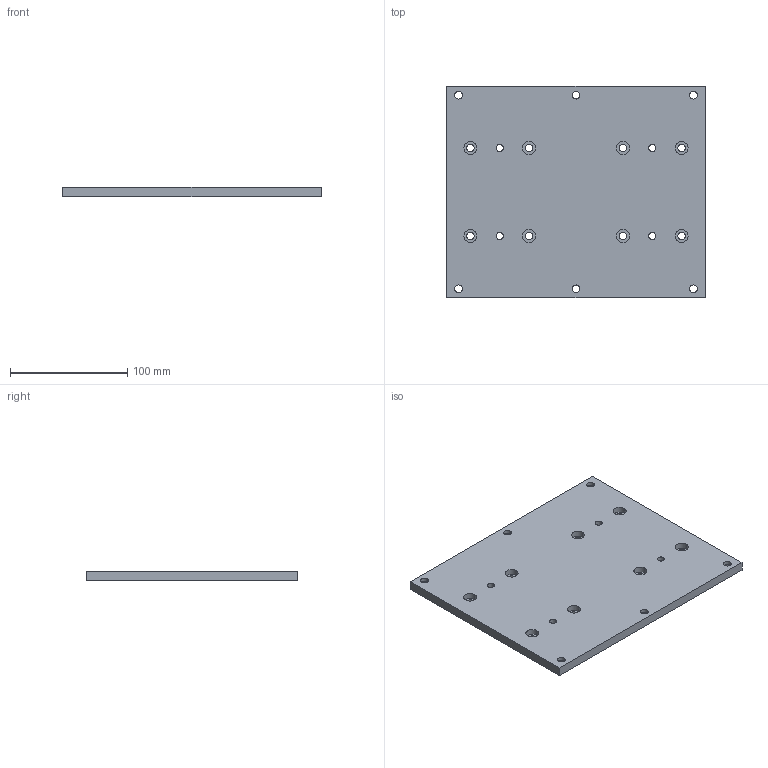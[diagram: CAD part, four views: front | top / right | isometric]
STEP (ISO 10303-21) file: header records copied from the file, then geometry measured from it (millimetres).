
FILE_DESCRIPTION (( 'STEP AP203' ), '1' );
FILE_NAME ('_-_PS12.step', '2005-09-07T12:57:00', ( ' ' ), ( ' ' ), 'SwSTEP 2.0', 'SolidWorks 2005187', '' );
FILE_SCHEMA (( 'CONFIG_CONTROL_DESIGN' ));
Length unit declared in the file: millimetre
Products named in the file (2): _-_PS12; TE1646 Schlittenplatte PS12_Standard
Assembly tree (1 placements, depth 2):
  _-_PS12
    TE1646 Schlittenplatte PS12_Standard
Bounding box: 220 x 180 x 8 mm (x, y, z)
Volume: 307806 mm3; surface area: 88308.9 mm2
Topology: 1 solids, 1 shells, 84 faces, 204 edges, 136 vertices
Faces by surface type: cylinder 64, plane 20
Entity records: 2804 total; most frequent: DIRECTION 508, CARTESIAN_POINT 428, ORIENTED_EDGE 408, AXIS2_PLACEMENT_3D 216, EDGE_CURVE 204, VERTEX_POINT 136, EDGE_LOOP 134, CIRCLE 128
